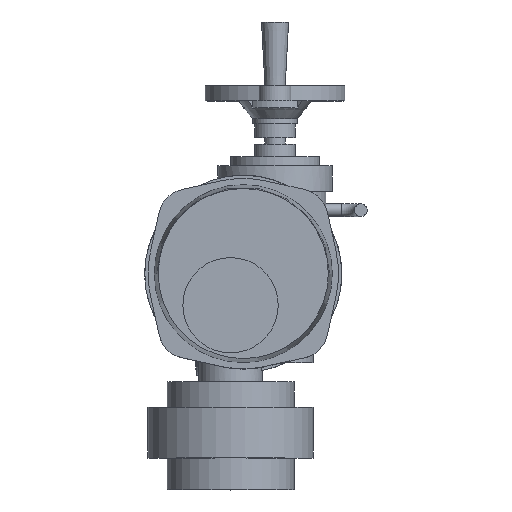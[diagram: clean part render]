
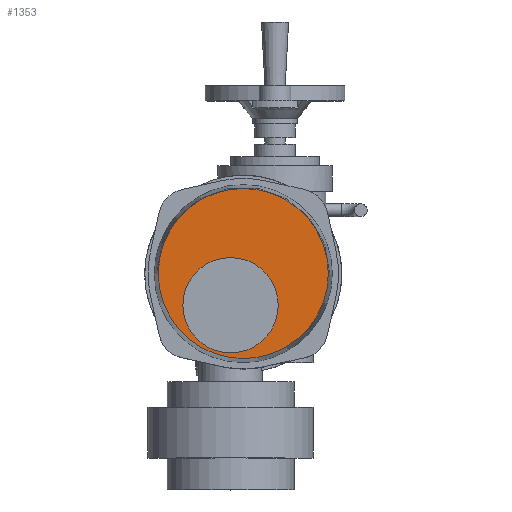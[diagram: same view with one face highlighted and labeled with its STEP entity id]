
A CAD part, top view. The second image highlights one B-rep face of the part: STEP entity #1353.
In plain terms, the highlighted planar face has unit normal (0, 0, 1).
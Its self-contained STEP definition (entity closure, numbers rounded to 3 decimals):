
#1353=ADVANCED_FACE('',(#2953,#2955),#2957,.T.);
#2953=FACE_BOUND('',#2954,.T.);
#2954=EDGE_LOOP('',(#4012));
#2955=FACE_BOUND('',#2956,.T.);
#2956=EDGE_LOOP('',(#4013));
#2957=PLANE('',#2958);
#2958=AXIS2_PLACEMENT_3D('',#2959,#2960,#2961);
#2959=CARTESIAN_POINT('',(15.,30.,370.));
#2960=DIRECTION('',(0.,0.,1.));
#2961=DIRECTION('',(-1.,0.,0.));
#4012=ORIENTED_EDGE('',*,*,#4514,.T.);
#4013=ORIENTED_EDGE('',*,*,#4554,.F.);
#4514=EDGE_CURVE('',#5159,#5159,#5160,.T.);
#4554=EDGE_CURVE('',#5219,#5219,#5220,.T.);
#5159=VERTEX_POINT('',#7948);
#5160=CIRCLE('',#7949,66.908);
#5219=VERTEX_POINT('',#8103);
#5220=CIRCLE('',#8104,37.5);
#7948=CARTESIAN_POINT('',(-51.908,30.,370.));
#7949=AXIS2_PLACEMENT_3D('',#7950,#7951,#7952);
#7950=CARTESIAN_POINT('',(15.,30.,370.));
#7951=DIRECTION('',(0.,0.,1.));
#7952=DIRECTION('',(-1.,0.,0.));
#8103=CARTESIAN_POINT('',(-32.5,5.,370.));
#8104=AXIS2_PLACEMENT_3D('',#8105,#8106,#8107);
#8105=CARTESIAN_POINT('',(5.,5.,370.));
#8106=DIRECTION('',(0.,0.,1.));
#8107=DIRECTION('',(-1.,0.,0.));
